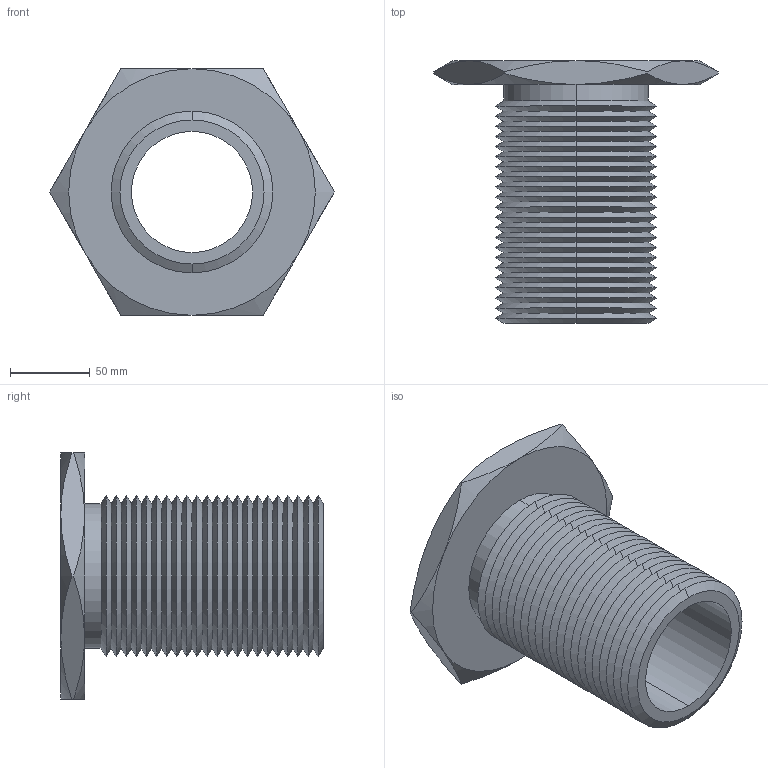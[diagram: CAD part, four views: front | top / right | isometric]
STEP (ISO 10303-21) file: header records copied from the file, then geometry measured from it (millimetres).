
FILE_DESCRIPTION (( 'STEP AP203' ), '1' );
FILE_NAME ('63302.W5400_3,00 UNC-4.step', '2013-12-08T12:04:56', ( 'User' ), ( '' ), 'SwSTEP 2.0', 'SolidWorks 2009', '' );
FILE_SCHEMA (( 'CONFIG_CONTROL_DESIGN' ));
Length unit declared in the file: millimetre
Products named in the file (1): 63302.W5400_3,00 UNC-4
Bounding box: 178.98 x 165 x 155 mm (x, y, z)
Volume: 627269.6 mm3; surface area: 164541.9 mm2
Topology: 1 solids, 1 shells, 115 faces, 234 edges, 122 vertices
Faces by surface type: cone 102, plane 9, cylinder 4
Entity records: 3179 total; most frequent: CARTESIAN_POINT 696, DIRECTION 552, ORIENTED_EDGE 468, EDGE_CURVE 234, AXIS2_PLACEMENT_3D 226, VERTEX_POINT 122, EDGE_LOOP 118, ADVANCED_FACE 115
